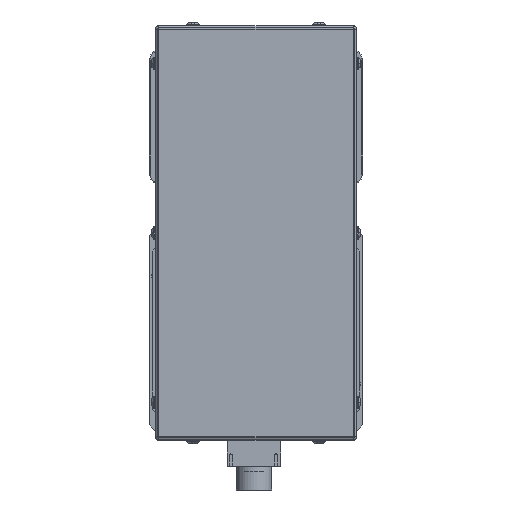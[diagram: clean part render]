
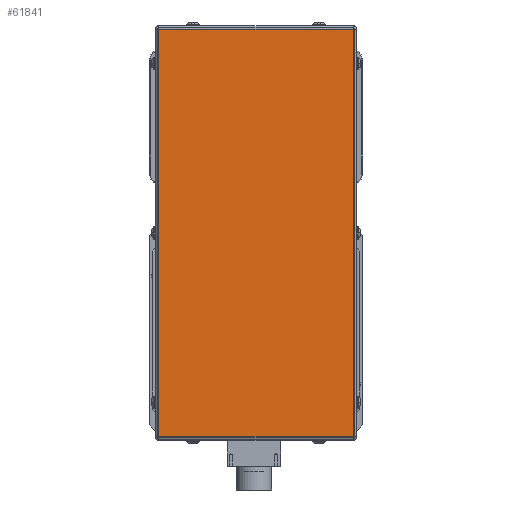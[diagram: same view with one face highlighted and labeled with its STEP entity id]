
A CAD part, front view. The second image highlights one B-rep face of the part: STEP entity #61841.
In plain terms, the highlighted planar face has unit normal (0, -1, 0).
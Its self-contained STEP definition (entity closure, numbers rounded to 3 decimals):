
#60746=DIRECTION('',(1.,0.,0.));
#60747=VECTOR('',#60746,344.);
#60748=CARTESIAN_POINT('',(-172.,-52.5,-82.));
#60749=LINE('',#60748,#60747);
#60750=DIRECTION('',(0.,0.,-1.));
#60751=VECTOR('',#60750,164.);
#60752=CARTESIAN_POINT('',(-172.,-52.5,82.));
#60753=LINE('',#60752,#60751);
#60754=DIRECTION('',(-1.,0.,0.));
#60755=VECTOR('',#60754,344.);
#60756=CARTESIAN_POINT('',(172.,-52.5,82.));
#60757=LINE('',#60756,#60755);
#60758=DIRECTION('',(0.,0.,1.));
#60759=VECTOR('',#60758,164.);
#60760=CARTESIAN_POINT('',(172.,-52.5,-82.));
#60761=LINE('',#60760,#60759);
#61618=CARTESIAN_POINT('',(-172.,-52.5,-82.));
#61619=CARTESIAN_POINT('',(172.,-52.5,-82.));
#61620=VERTEX_POINT('',#61618);
#61621=VERTEX_POINT('',#61619);
#61622=CARTESIAN_POINT('',(172.,-52.5,82.));
#61623=VERTEX_POINT('',#61622);
#61624=CARTESIAN_POINT('',(-172.,-52.5,82.));
#61625=VERTEX_POINT('',#61624);
#61826=CARTESIAN_POINT('',(0.,-52.5,0.));
#61827=DIRECTION('',(0.,1.,0.));
#61828=DIRECTION('',(1.,0.,0.));
#61829=AXIS2_PLACEMENT_3D('',#61826,#61827,#61828);
#61830=PLANE('',#61829);
#61832=ORIENTED_EDGE('',*,*,#61831,.F.);
#61834=ORIENTED_EDGE('',*,*,#61833,.F.);
#61836=ORIENTED_EDGE('',*,*,#61835,.F.);
#61838=ORIENTED_EDGE('',*,*,#61837,.F.);
#61839=EDGE_LOOP('',(#61832,#61834,#61836,#61838));
#61840=FACE_OUTER_BOUND('',#61839,.F.);
#61841=ADVANCED_FACE('',(#61840),#61830,.F.);
#61831=EDGE_CURVE('',#61620,#61621,#60749,.T.);
#61833=EDGE_CURVE('',#61625,#61620,#60753,.T.);
#61835=EDGE_CURVE('',#61623,#61625,#60757,.T.);
#61837=EDGE_CURVE('',#61621,#61623,#60761,.T.);
